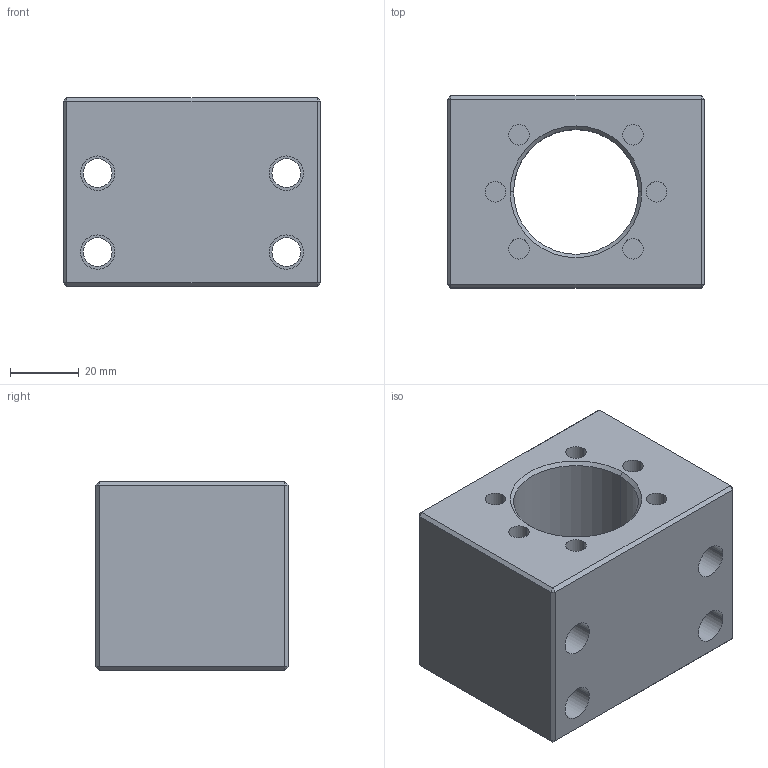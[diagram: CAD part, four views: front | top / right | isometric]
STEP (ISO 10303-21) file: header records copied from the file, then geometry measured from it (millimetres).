
FILE_DESCRIPTION (( 'STEP AP214' ), '1' );
FILE_NAME ('2.4020 Kuulamutterin kotelo MGD20.STEP', '2024-05-06T10:31:31', ( '' ), ( '' ), 'SwSTEP 2.0', 'SolidWorks 2024', '' );
FILE_SCHEMA (( 'AUTOMOTIVE_DESIGN' ));
Length unit declared in the file: millimetre
Products named in the file (1): 2.4020 Kuulamutterin kotelo MGD20
Bounding box: 75 x 56 x 55 mm (x, y, z)
Volume: 153188.7 mm3; surface area: 34137.8 mm2
Topology: 1 solids, 1 shells, 90 faces, 186 edges, 112 vertices
Faces by surface type: plane 40, cylinder 38, cone 12
Entity records: 2413 total; most frequent: DIRECTION 456, CARTESIAN_POINT 389, ORIENTED_EDGE 372, EDGE_CURVE 186, AXIS2_PLACEMENT_3D 179, EDGE_LOOP 114, VERTEX_POINT 112, VECTOR 98
